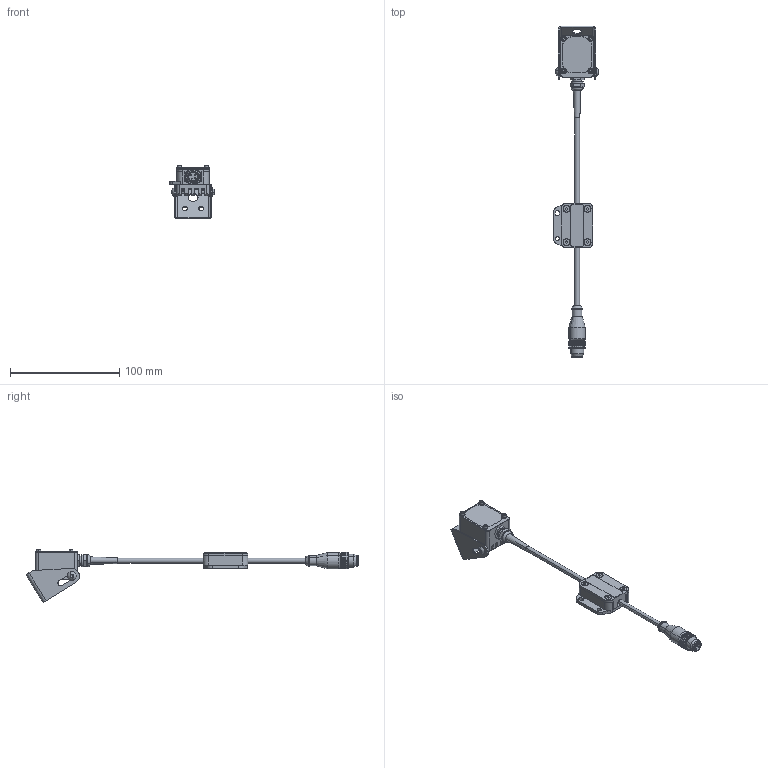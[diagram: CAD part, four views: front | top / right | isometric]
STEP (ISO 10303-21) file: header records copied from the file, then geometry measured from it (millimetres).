
FILE_DESCRIPTION (( 'STEP AP214' ), '1' );
FILE_NAME ('TSPOT4.STEP', '2012-07-13T09:55:35', ( ' ' ), ( '' ), 'SwSTEP 2.0', 'SolidWorks 2009', '' );
FILE_SCHEMA (( 'AUTOMOTIVE_DESIGN' ));
Length unit declared in the file: millimetre
Products named in the file (1): TSPOT4
Bounding box: 41 x 303.31 x 48.56 mm (x, y, z)
Volume: 39197.3 mm3; surface area: 35811.6 mm2
Topology: 24 solids, 24 shells, 2193 faces, 6140 edges, 4016 vertices
Faces by surface type: cylinder 1610, plane 419, cone 106, torus 44, sphere 12, bspline 2
Entity records: 100056 total; most frequent: CARTESIAN_POINT 27205, ORIENTED_EDGE 12196, DIRECTION 7377, EDGE_CURVE 6098, VERTEX_POINT 4008, B_SPLINE_CURVE_WITH_KNOTS 3590, AXIS2_PLACEMENT_3D 3075, EDGE_LOOP 2294
